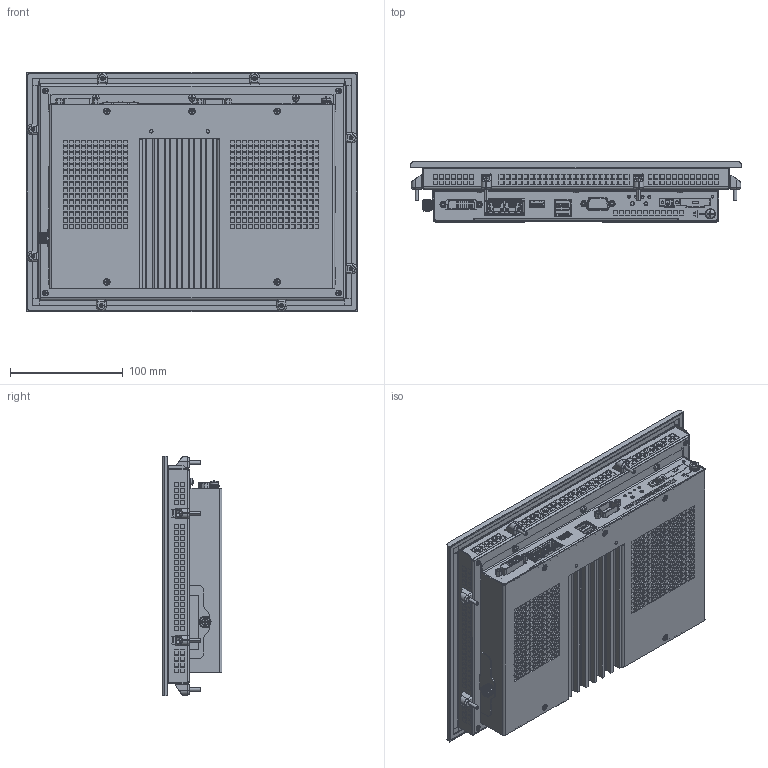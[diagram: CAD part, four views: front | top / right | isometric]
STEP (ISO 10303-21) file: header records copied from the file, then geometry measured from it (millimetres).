
FILE_DESCRIPTION((''),'2;1');
FILE_NAME('C6E22-Panel_101W_CAP_SL','2017-02-23T',('manpal'),(''),'PRO/ENGINEER BY PARAMETRIC TECHNOLOGY CORPORATION, 2013410','PRO/ENGINEER BY PARAMETRIC TECHNOLOGY CORPORATION, 2013410','');
FILE_SCHEMA(('AUTOMOTIVE_DESIGN { 1 0 10303 214 1 1 1 1 }'));
Products named in the file (1): C6E22-Panel_101W_CAP_SL_
Bounding box: 293 x 53.1 x 212 mm (x, y, z)
Surface area: 463185.3 mm2 (no closed solid volume)
Topology: 0 solids, 338 shells, 4529 faces, 17912 edges, 13558 vertices
Faces by surface type: plane 3557, cylinder 595, cone 215, bspline 105, torus 29, sphere 26, extrusion 2
Entity records: 212333 total; most frequent: CARTESIAN_POINT 47399, DIRECTION 28170, ORIENTED_EDGE 26222, EDGE_CURVE 17870, VECTOR 14322, LINE 14320, VERTEX_POINT 13558, AXIS2_PLACEMENT_3D 6924
